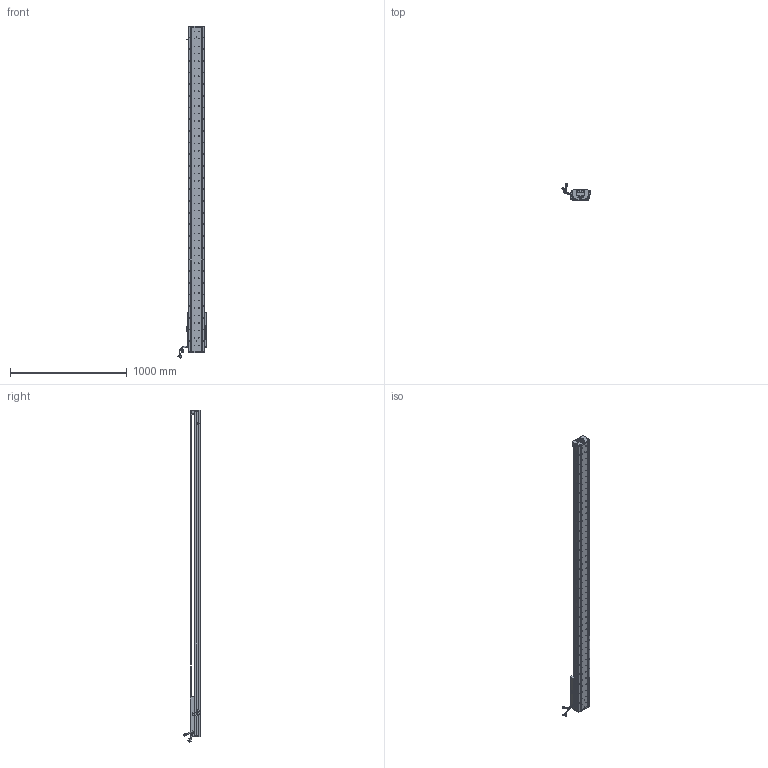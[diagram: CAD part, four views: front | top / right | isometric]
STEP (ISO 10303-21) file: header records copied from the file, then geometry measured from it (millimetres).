
FILE_DESCRIPTION (( 'STEP AP203' ), '1' );
FILE_NAME ('Z4-RY140D-1-L500-B-K.SLDASM_2400.step', '2021-05-17T08:19:41', ( '盈信电脑' ), ( '东莞市道滘镇水果街19号' ), 'SwSTEP 2.0', 'SolidWorks 2016', '' );
FILE_SCHEMA (( 'CONFIG_CONTROL_DESIGN' ));
Length unit declared in the file: millimetre
Products named in the file (36): SCREW-M1.6-3; HARNESS-Part-1; COVER; PBU_SHEET; Z4-RY140-L500詩湍100mm遵_2400; SCREW-M1.6-2; SCALE-Part-2; 140雄赽晤鎢ん堤盄; 榋妏寠巭燃_暯_M2_2; Z4-RY140-L500直线电机模组底座_2400; HOLDER0; 詩湍奻揤裔; 140蚥薯蝶輸; SCALE; SEAL-Part-1; Z4-RY140圉猾敕臏賑輸(21遴); SHIELDPLATE; 詩湍狟揤裔; 140-Z-臏賑輸盄裔(21遴); SEAL; Z-140詩湍傷裔啣; COVER-Part-1; PSLH080_PSLF2; SCREW-M1.6-1; SCREW-M1.7-1; SCREW-M1.6; HARNESS; 覜茼ん672; HARNESS-Part-2; Z-RY140感应器672光电感应片; LABEL-Part-1; SCREW-M1.7; LABEL; SCALE-Part-1; Z4-RY140D-1-L500-B-K.SLDASM_2400; 080黍杅芛假蚾釱21遴
Assembly tree (41 placements, depth 4):
  Z4-RY140D-1-L500-B-K.SLDASM_2400
    Z4-RY140-L500直线电机模组底座_2400
    Z-RY140感应器672光电感应片
    Z4-RY140圉猾敕臏賑輸(21遴)
    覜茼ん672  x3
    Z4-RY140-L500詩湍100mm遵_2400
    PSLH080_PSLF2
      SCALE
        SCALE-Part-1
        SCALE-Part-2
      HARNESS
        HARNESS-Part-1
        HARNESS-Part-2
      LABEL
        LABEL-Part-1
      COVER
        COVER-Part-1
      SEAL
        SEAL-Part-1
      榋妏寠巭燃_暯_M2_2
      SHIELDPLATE
      SCREW-M1.7
      SCREW-M1.7-1
      PBU_SHEET
      SCREW-M1.6
      SCREW-M1.6-1
      SCREW-M1.6-2
      SCREW-M1.6-3
      HOLDER0
    080黍杅芛假蚾釱21遴
    140-Z-臏賑輸盄裔(21遴)
    Z-140詩湍傷裔啣  x2
    詩湍狟揤裔  x2
    詩湍奻揤裔  x2
    140蚥薯蝶輸  x2
    140雄赽晤鎢ん堤盄
Bounding box: 239.79 x 143.88 x 2840.87 mm (x, y, z)
Volume: 9242316.1 mm3; surface area: 2386960.6 mm2
Topology: 36 solids, 36 shells, 4228 faces, 11514 edges, 7289 vertices
Faces by surface type: cylinder 2304, plane 1384, cone 418, torus 69, bspline 53
Entity records: 134566 total; most frequent: CARTESIAN_POINT 38099, ORIENTED_EDGE 19916, DIRECTION 18426, EDGE_CURVE 9958, AXIS2_PLACEMENT_3D 6864, VERTEX_POINT 6457, VECTOR 4698, LINE 4698
